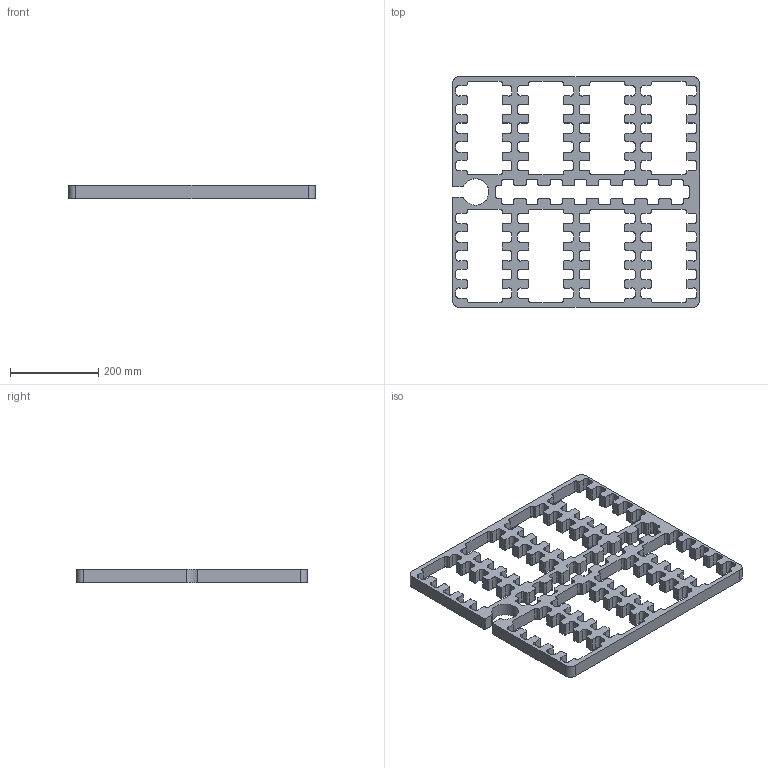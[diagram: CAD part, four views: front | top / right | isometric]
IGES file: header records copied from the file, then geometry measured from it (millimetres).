
Global section: file name: foam_4 v1; native system: unknown; preprocessor: unknown; author: unknown; organization: unknown; date: 20190213.104856; units: millimetre
Bounding box: 561.02 x 524.51 x 30 mm (x, y, z)
Volume: 2784023.6 mm3; surface area: 529930 mm2
Topology: 1 solids, 1 shells, 858 faces, 2568 edges, 1712 vertices
Faces by surface type: bspline 858
